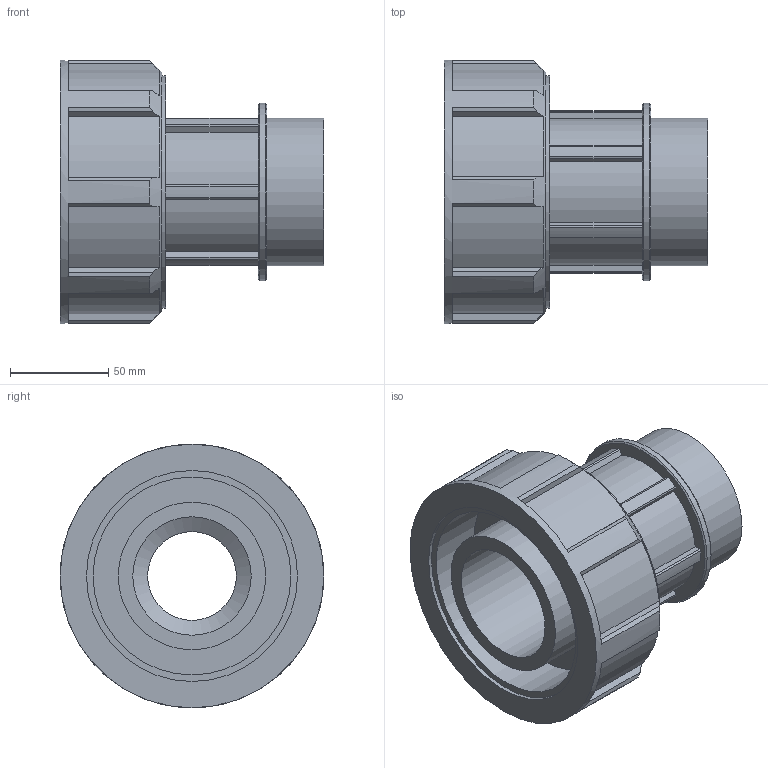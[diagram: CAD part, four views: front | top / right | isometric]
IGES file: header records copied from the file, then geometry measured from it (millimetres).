
Global section: file name: 0725060750250A.ipt; native system: Autodesk Inventor 2015; preprocessor: unknown; author: KIM; date: 20170608.042220; units: millimetre
Bounding box: 134 x 134 x 134 mm (x, y, z)
Volume: 581136.3 mm3; surface area: 122396.1 mm2
Topology: 1 solids, 1 shells, 108 faces, 300 edges, 202 vertices
Faces by surface type: plane 74, cylinder 25, revolution 6, cone 3
Full cylindrical faces by diameter (mm): 75 x1, 75.184 x1, 90.221 x1, 117.92 x1, 134 x1
